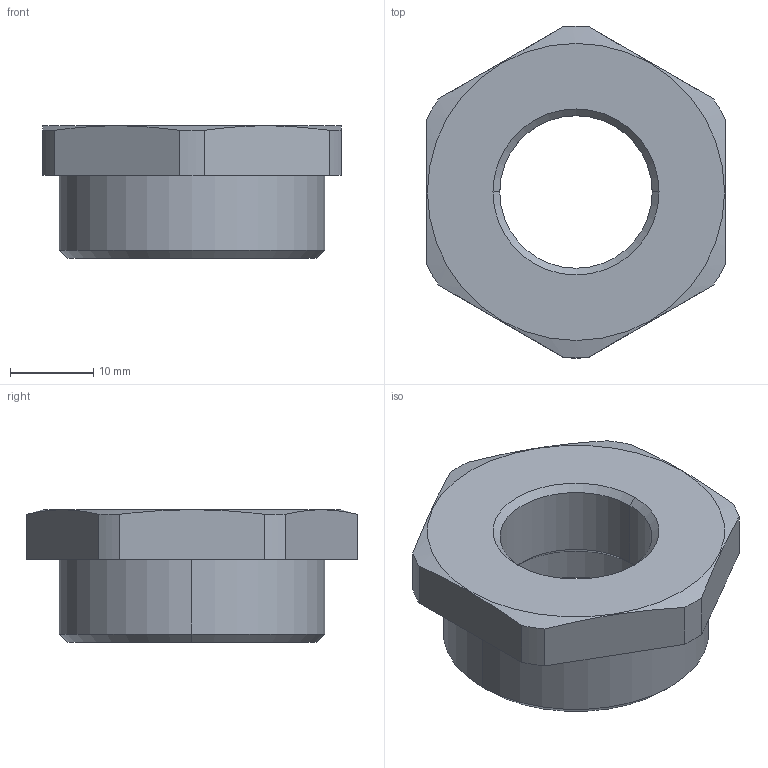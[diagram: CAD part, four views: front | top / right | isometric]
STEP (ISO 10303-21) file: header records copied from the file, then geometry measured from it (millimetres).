
FILE_DESCRIPTION (( 'STEP AP203' ), '1' );
FILE_NAME ('M32M20 PA.STEP', '2005-12-09T07:42:45', ( ' ' ), ( '' ), 'SwSTEP 2.0', 'SolidWorks 2005278', '' );
FILE_SCHEMA (( 'CONFIG_CONTROL_DESIGN' ));
Length unit declared in the file: millimetre
Products named in the file (1): M32M20 PA
Bounding box: 36 x 39.99 x 16 mm (x, y, z)
Volume: 8787.1 mm3; surface area: 4369.9 mm2
Topology: 1 solids, 1 shells, 67 faces, 174 edges, 114 vertices
Faces by surface type: plane 47, cylinder 12, cone 8
Entity records: 2149 total; most frequent: CARTESIAN_POINT 408, ORIENTED_EDGE 348, DIRECTION 334, EDGE_CURVE 174, LINE 134, VECTOR 134, VERTEX_POINT 114, AXIS2_PLACEMENT_3D 100
